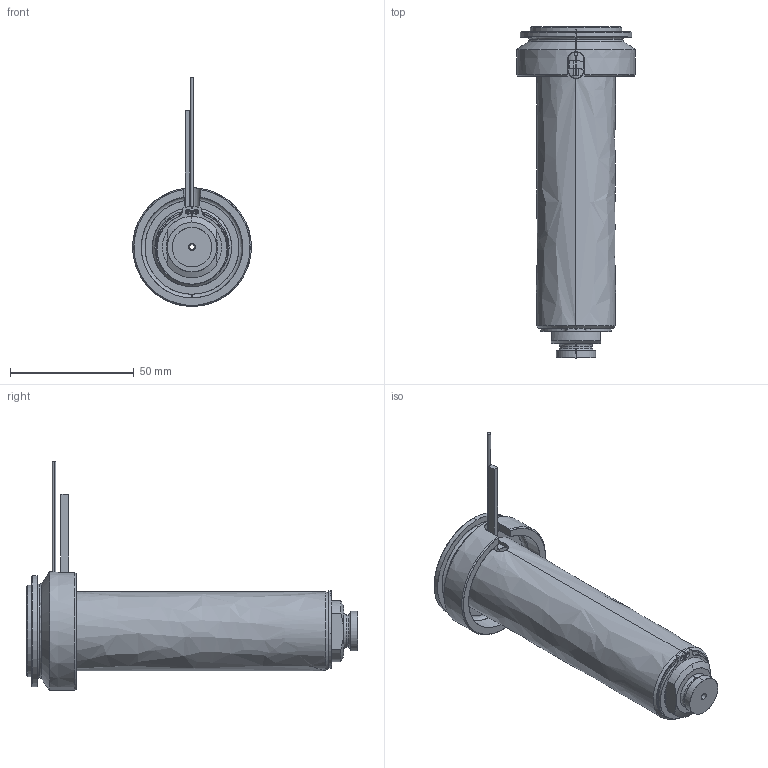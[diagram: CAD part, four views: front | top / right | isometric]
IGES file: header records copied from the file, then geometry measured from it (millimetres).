
Start section: SolidWorks IGES file using analytic representation for surfaces
Global section: file name: C:\Documents and Settings\ws-20\Desktop\TEMPORANEA\UGBE5003-M-A-3 [Ød-2.0 P-0 ØC-13].IGS; native system: SolidWorks 2012; preprocessor: SolidWorks 2012; author: ws-20; date: 120306.162000; units: millimetre
Bounding box: 48 x 134.25 x 92.62 mm (x, y, z)
Surface area: 49693.2 mm2 (no closed solid volume)
Topology: 0 solids, 0 shells, 108 faces, 2042 edges, 2042 vertices
Faces by surface type: revolution 61, bspline 47
